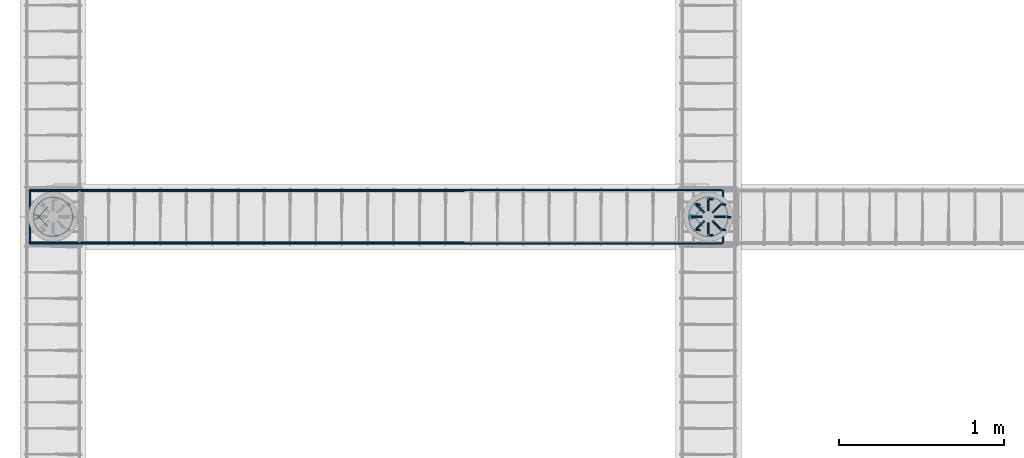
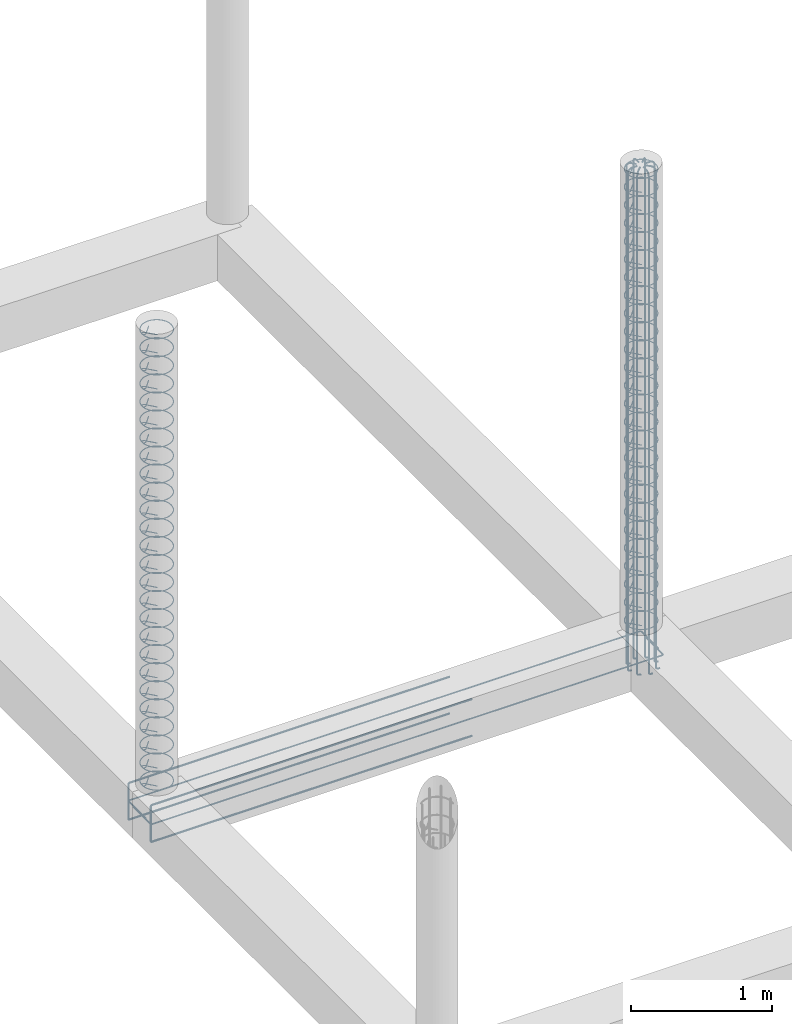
# One storey, part 11 of 20: 6 reinforcing bars.
"""IFC4 building model written with IfcOpenShell, lengths in metres."""

from ifc_helpers import new_model, entity, si_unit, origin_with_axes, place, context, project, spatial, source, transform, mapped, element, save


model = new_model("IFC4")

# Units and contexts
model_context = context("Model", 3, precision=1e-05, world=origin_with_axes())
ifc_project = project(units=[si_unit("LENGTHUNIT", "METRE"), si_unit("AREAUNIT", "SQUARE_METRE"), si_unit("VOLUMEUNIT", "CUBIC_METRE"), si_unit("MASSUNIT", "GRAM", prefix="KILO"), si_unit("TIMEUNIT", "SECOND"), si_unit("PLANEANGLEUNIT", "RADIAN"), si_unit("SOLIDANGLEUNIT", "STERADIAN"), si_unit("THERMODYNAMICTEMPERATUREUNIT", "DEGREE_CELSIUS")], contexts=[model_context])

# Site, building, storey
placement_1 = place(None, origin_with_axes())
site = spatial("IfcSite", under=ifc_project, at=placement_1, Name="Italia", CompositionType="ELEMENT")
building = spatial("IfcBuilding", under=site, at=placement_1, Name="Tettoia", CompositionType="ELEMENT")
storey = spatial("IfcBuildingStorey", under=building, at=placement_1, Name="Storey 0", CompositionType="ELEMENT", Elevation=0.0)

# Reinforcing bars
shared_shape_1 = source(origin_with_axes(), model_context, "Body", "AdvancedSweptSolid", [
    entity("IfcSweptDiskSolid", entity("IfcIndexedPolyCurve", entity("IfcCartesianPointList3D", [[3.99102, 13.946, -0.375], [3.97714, 13.9479, -0.375], [3.97097, 13.9487, -0.373761], [3.96573, 13.9494, -0.370231], [3.96223, 13.9498, -0.364949], [3.961, 13.95, -0.358718], [3.961, 13.95, 0.5725]]), [entity("IfcLineIndex", [1, 2]), entity("IfcLineIndex", [2, 3]), entity("IfcLineIndex", [3, 4]), entity("IfcLineIndex", [4, 5]), entity("IfcLineIndex", [5, 6]), entity("IfcLineIndex", [6, 7])], False), 0.007),
])
placement_2 = place(placement_1, origin_with_axes())
reinforcing_bar_1_placement = place(placement_2, origin_with_axes())
element("IfcReinforcingBar", 1, at=reinforcing_bar_1_placement, inside=storey, BarLength=0.97063, CrossSectionArea=0.00015394, NominalDiameter=0.014, context=model_context, shape_type="MappedRepresentation", body=[
    mapped(shared_shape_1, transform((0.031894, -0.0770674, 0.0), x_axis=(1.0, 0.0, 0.0), y_axis=(0.0, 1.0, 0.0), z_axis=(0.0, 0.0, 1.0), scale=1.0)),
    mapped(shared_shape_1, transform((0.108906, -0.108974, 0.0), x_axis=(1.0, 0.0, 0.0), y_axis=(0.0, 1.0, 0.0), z_axis=(0.0, 0.0, 1.0), scale=1.0)),
    mapped(shared_shape_1, transform((0.186042, -0.0770674, 0.0), x_axis=(1.0, 0.0, 0.0), y_axis=(0.0, 1.0, 0.0), z_axis=(0.0, 0.0, 1.0), scale=1.0)),
    mapped(shared_shape_1, transform((0.217968, 0.0, 0.0), x_axis=(1.0, 0.0, 0.0), y_axis=(0.0, 1.0, 0.0), z_axis=(0.0, 0.0, 1.0), scale=1.0)),
    mapped(shared_shape_1, transform((0.031894, 0.0770817, -1.48714e-05), x_axis=(1.0, 0.0, 0.0), y_axis=(0.0, 1.0, 0.0), z_axis=(0.0, 0.0, 1.0), scale=1.0)),
    mapped(shared_shape_1, transform((0.0, 0.0, 0.0), x_axis=(1.0, 0.0, 0.0), y_axis=(0.0, 1.0, 0.0), z_axis=(0.0, 0.0, 1.0), scale=1.0)),
    mapped(shared_shape_1, transform((0.186042, 0.0770817, -1.43945e-05), x_axis=(1.0, 0.0, 0.0), y_axis=(0.0, 1.0, 0.0), z_axis=(0.0, 0.0, 1.0), scale=1.0)),
    mapped(shared_shape_1, transform((0.109031, 0.10899, -1.32918e-05), x_axis=(1.0, 0.0, 0.0), y_axis=(0.0, 1.0, 0.0), z_axis=(0.0, 0.0, 1.0), scale=1.0)),
])
shared_shape_2 = source(origin_with_axes(), model_context, "Body", "AdvancedSweptSolid", [
    entity("IfcSweptDiskSolid", entity("IfcIndexedPolyCurve", entity("IfcCartesianPointList3D", [[3.961, 13.95, 0.0], [3.961, 13.95, 3.94], [3.96366, 13.95, 3.95339], [3.97125, 13.95, 3.96475], [3.98261, 13.95, 3.97234], [3.996, 13.95, 3.975], [4.036, 13.95, 3.975]]), [entity("IfcLineIndex", [1, 2]), entity("IfcLineIndex", [2, 3]), entity("IfcLineIndex", [3, 4]), entity("IfcLineIndex", [4, 5]), entity("IfcLineIndex", [5, 6]), entity("IfcLineIndex", [6, 7])], False), 0.007),
])
reinforcing_bar_2_placement = place(placement_2, origin_with_axes())
element("IfcReinforcingBar", 2, at=reinforcing_bar_2_placement, inside=storey, BarLength=4.03463, CrossSectionArea=0.00015394, NominalDiameter=0.014, context=model_context, shape_type="MappedRepresentation", body=[
    mapped(shared_shape_2, transform((16.812, 20.9363, 0.0), x_axis=(-0.70711, 0.707104, 0.0), y_axis=(-0.707104, -0.70711, 0.0), z_axis=(0.0, 0.0, 1.0), scale=1.0)),
    mapped(shared_shape_2, transform((8.14, 27.9, 0.0), x_axis=(-1.0, 0.0, 0.0), y_axis=(0.0, -1.0, 0.0), z_axis=(0.0, 0.0, 1.0), scale=1.0)),
    mapped(shared_shape_2, transform((11.0562, 1.20792, 0.0), x_axis=(0.707108, 0.707105, 0.0), y_axis=(-0.707105, 0.707108, 0.0), z_axis=(0.0, 0.0, 1.0), scale=1.0)),
    mapped(shared_shape_2, transform((18.02, 9.88, 0.0), x_axis=(0.0, 1.0, 0.0), y_axis=(-1.0, 0.0, 0.0), z_axis=(0.0, 0.0, 1.0), scale=1.0)),
    mapped(shared_shape_2, transform((-8.67205, 6.96376, 0.0), x_axis=(0.707108, -0.707105, 0.0), y_axis=(0.707105, 0.707108, 0.0), z_axis=(0.0, 0.0, 1.0), scale=1.0)),
    mapped(shared_shape_2, transform((0.0, 0.0, 0.0), x_axis=(1.0, 0.0, 0.0), y_axis=(0.0, 1.0, 0.0), z_axis=(0.0, 0.0, 1.0), scale=1.0)),
    mapped(shared_shape_2, transform((-2.91616, 26.6921, 0.0), x_axis=(-0.70711, -0.707104, 0.0), y_axis=(0.707104, -0.70711, 0.0), z_axis=(0.0, 0.0, 1.0), scale=1.0)),
    mapped(shared_shape_2, transform((-9.88, 18.02, 0.0), x_axis=(0.0, -1.0, 0.0), y_axis=(1.0, 0.0, 0.0), z_axis=(0.0, 0.0, 1.0), scale=1.0)),
])
shared_shape_3 = source(origin_with_axes(), model_context, "Body", "AdvancedSweptSolid", [
    entity("IfcSweptDiskSolid", entity("IfcIndexedPolyCurve", entity("IfcCartesianPointList3D", [[4.03909, 13.8886, 0.029], [3.97569, 13.9605, 0.029], [3.96882, 13.9638, 0.029], [3.96197, 13.9643, 0.029], [3.95811, 13.9637, 0.029], [3.95473, 13.9618, 0.029], [3.95237, 13.9587, 0.029], [3.95137, 13.9549, 0.029], [3.9511, 13.9507, 0.029], [3.95111, 13.9493, 0.029], [3.95246, 13.9322, 0.029], [3.95271, 13.9306, 0.029], [3.9567, 13.914, 0.029], [3.95718, 13.9125, 0.029], [3.96372, 13.8967, 0.029], [3.96443, 13.8953, 0.029], [3.97336, 13.8808, 0.029], [3.97429, 13.8795, 0.029], [3.98538, 13.8665, 0.029], [3.98649, 13.8654, 0.029], [3.99949, 13.8543, 0.029], [4.00076, 13.8534, 0.029], [4.01533, 13.8444, 0.029], [4.01673, 13.8437, 0.029], [4.03252, 13.8372, 0.029], [4.03401, 13.8367, 0.029], [4.05063, 13.8327, 0.029], [4.05218, 13.8325, 0.029], [4.06922, 13.8311, 0.029], [4.07078, 13.8311, 0.029], [4.08782, 13.8325, 0.029], [4.08937, 13.8327, 0.029], [4.10599, 13.8367, 0.029], [4.10748, 13.8372, 0.029], [4.12327, 13.8437, 0.029], [4.12467, 13.8444, 0.029], [4.13924, 13.8534, 0.029], [4.14051, 13.8543, 0.029], [4.15351, 13.8654, 0.029], [4.15462, 13.8665, 0.029], [4.16571, 13.8795, 0.029], [4.16664, 13.8808, 0.029], [4.17557, 13.8953, 0.029], [4.17628, 13.8967, 0.029], [4.18282, 13.9125, 0.029], [4.1833, 13.914, 0.029], [4.18729, 13.9306, 0.029], [4.18754, 13.9322, 0.029], [4.18888, 13.9492, 0.029], [4.18888, 13.9508, 0.029], [4.18754, 13.9678, 0.029], [4.18729, 13.9694, 0.029], [4.1833, 13.986, 0.029], [4.18282, 13.9875, 0.029], [4.17628, 14.0033, 0.029], [4.17557, 14.0047, 0.029], [4.16664, 14.0192, 0.029], [4.16571, 14.0205, 0.029], [4.15462, 14.0335, 0.029], [4.15351, 14.0346, 0.029], [4.14051, 14.0457, 0.029], [4.13924, 14.0466, 0.029], [4.12467, 14.0556, 0.029], [4.12327, 14.0563, 0.029], [4.10748, 14.0628, 0.029], [4.10599, 14.0633, 0.029], [4.08937, 14.0673, 0.029], [4.08782, 14.0675, 0.029], [4.07078, 14.0689, 0.029], [4.06922, 14.0689, 0.029], [4.05218, 14.0675, 0.029], [4.05063, 14.0673, 0.029], [4.03401, 14.0633, 0.029], [4.03252, 14.0628, 0.029], [4.01673, 14.0563, 0.029], [4.01533, 14.0556, 0.029], [4.00076, 14.0466, 0.029], [3.99949, 14.0457, 0.029], [3.98649, 14.0346, 0.029], [3.98538, 14.0335, 0.029], [3.97429, 14.0205, 0.029], [3.97336, 14.0192, 0.029], [3.96443, 14.0047, 0.029], [3.96372, 14.0033, 0.029], [3.95718, 13.9875, 0.029], [3.9567, 13.986, 0.029], [3.95271, 13.9694, 0.029], [3.95246, 13.9678, 0.029], [3.95111, 13.9507, 0.029], [3.9511, 13.9493, 0.029], [3.95137, 13.9451, 0.029], [3.95237, 13.9413, 0.029], [3.95473, 13.9382, 0.029], [3.95811, 13.9363, 0.029], [3.96197, 13.9357, 0.029], [3.96882, 13.9362, 0.029], [3.97569, 13.9395, 0.029], [4.03909, 14.0114, 0.029]]), [entity("IfcLineIndex", [1, 2]), entity("IfcLineIndex", [2, 3]), entity("IfcLineIndex", [3, 4]), entity("IfcLineIndex", [4, 5]), entity("IfcLineIndex", [5, 6]), entity("IfcLineIndex", [6, 7]), entity("IfcLineIndex", [7, 8]), entity("IfcLineIndex", [8, 9]), entity("IfcLineIndex", [9, 10]), entity("IfcLineIndex", [10, 11]), entity("IfcLineIndex", [11, 12]), entity("IfcLineIndex", [12, 13]), entity("IfcLineIndex", [13, 14]), entity("IfcLineIndex", [14, 15]), entity("IfcLineIndex", [15, 16]), entity("IfcLineIndex", [16, 17]), entity("IfcLineIndex", [17, 18]), entity("IfcLineIndex", [18, 19]), entity("IfcLineIndex", [19, 20]), entity("IfcLineIndex", [20, 21]), entity("IfcLineIndex", [21, 22]), entity("IfcLineIndex", [22, 23]), entity("IfcLineIndex", [23, 24]), entity("IfcLineIndex", [24, 25]), entity("IfcLineIndex", [25, 26]), entity("IfcLineIndex", [26, 27]), entity("IfcLineIndex", [27, 28]), entity("IfcLineIndex", [28, 29]), entity("IfcLineIndex", [29, 30]), entity("IfcLineIndex", [30, 31]), entity("IfcLineIndex", [31, 32]), entity("IfcLineIndex", [32, 33]), entity("IfcLineIndex", [33, 34]), entity("IfcLineIndex", [34, 35]), entity("IfcLineIndex", [35, 36]), entity("IfcLineIndex", [36, 37]), entity("IfcLineIndex", [37, 38]), entity("IfcLineIndex", [38, 39]), entity("IfcLineIndex", [39, 40]), entity("IfcLineIndex", [40, 41]), entity("IfcLineIndex", [41, 42]), entity("IfcLineIndex", [42, 43]), entity("IfcLineIndex", [43, 44]), entity("IfcLineIndex", [44, 45]), entity("IfcLineIndex", [45, 46]), entity("IfcLineIndex", [46, 47]), entity("IfcLineIndex", [47, 48]), entity("IfcLineIndex", [48, 49]), entity("IfcLineIndex", [49, 50]), entity("IfcLineIndex", [50, 51]), entity("IfcLineIndex", [51, 52]), entity("IfcLineIndex", [52, 53]), entity("IfcLineIndex", [53, 54]), entity("IfcLineIndex", [54, 55]), entity("IfcLineIndex", [55, 56]), entity("IfcLineIndex", [56, 57]), entity("IfcLineIndex", [57, 58]), entity("IfcLineIndex", [58, 59]), entity("IfcLineIndex", [59, 60]), entity("IfcLineIndex", [60, 61]), entity("IfcLineIndex", [61, 62]), entity("IfcLineIndex", [62, 63]), entity("IfcLineIndex", [63, 64]), entity("IfcLineIndex", [64, 65]), entity("IfcLineIndex", [65, 66]), entity("IfcLineIndex", [66, 67]), entity("IfcLineIndex", [67, 68]), entity("IfcLineIndex", [68, 69]), entity("IfcLineIndex", [69, 70]), entity("IfcLineIndex", [70, 71]), entity("IfcLineIndex", [71, 72]), entity("IfcLineIndex", [72, 73]), entity("IfcLineIndex", [73, 74]), entity("IfcLineIndex", [74, 75]), entity("IfcLineIndex", [75, 76]), entity("IfcLineIndex", [76, 77]), entity("IfcLineIndex", [77, 78]), entity("IfcLineIndex", [78, 79]), entity("IfcLineIndex", [79, 80]), entity("IfcLineIndex", [80, 81]), entity("IfcLineIndex", [81, 82]), entity("IfcLineIndex", [82, 83]), entity("IfcLineIndex", [83, 84]), entity("IfcLineIndex", [84, 85]), entity("IfcLineIndex", [85, 86]), entity("IfcLineIndex", [86, 87]), entity("IfcLineIndex", [87, 88]), entity("IfcLineIndex", [88, 89]), entity("IfcLineIndex", [89, 90]), entity("IfcLineIndex", [90, 91]), entity("IfcLineIndex", [91, 92]), entity("IfcLineIndex", [92, 93]), entity("IfcLineIndex", [93, 94]), entity("IfcLineIndex", [94, 95]), entity("IfcLineIndex", [95, 96]), entity("IfcLineIndex", [96, 97]), entity("IfcLineIndex", [97, 98])], False), 0.004),
])
reinforcing_bar_3_placement = place(placement_2, origin_with_axes())
element("IfcReinforcingBar", 3, at=reinforcing_bar_3_placement, inside=storey, BarLength=1.00814, CrossSectionArea=5.0265e-05, NominalDiameter=0.008, context=model_context, shape_type="MappedRepresentation", body=[
    mapped(shared_shape_3, transform((0.0, 0.0, 1.8768), x_axis=(1.0, 0.0, 0.0), y_axis=(0.0, 1.0, 0.0), z_axis=(0.0, 0.0, 1.0), scale=1.0)),
    mapped(shared_shape_3, transform((0.0, 0.0, 1.7204), x_axis=(1.0, 0.0, 0.0), y_axis=(0.0, 1.0, 0.0), z_axis=(0.0, 0.0, 1.0), scale=1.0)),
    mapped(shared_shape_3, transform((0.0, 0.0, 1.0948), x_axis=(1.0, 0.0, 0.0), y_axis=(0.0, 1.0, 0.0), z_axis=(0.0, 0.0, 1.0), scale=1.0)),
    mapped(shared_shape_3, transform((0.0, 0.0, 1.4076), x_axis=(1.0, 0.0, 0.0), y_axis=(0.0, 1.0, 0.0), z_axis=(0.0, 0.0, 1.0), scale=1.0)),
    mapped(shared_shape_3, transform((0.0, 0.0, 1.2512), x_axis=(1.0, 0.0, 0.0), y_axis=(0.0, 1.0, 0.0), z_axis=(0.0, 0.0, 1.0), scale=1.0)),
    mapped(shared_shape_3, transform((0.0, 0.0, 1.564), x_axis=(1.0, 0.0, 0.0), y_axis=(0.0, 1.0, 0.0), z_axis=(0.0, 0.0, 1.0), scale=1.0)),
    mapped(shared_shape_3, transform((0.0, 0.0, 0.9384), x_axis=(1.0, 0.0, 0.0), y_axis=(0.0, 1.0, 0.0), z_axis=(0.0, 0.0, 1.0), scale=1.0)),
    mapped(shared_shape_3, transform((0.0, 0.0, 0.782), x_axis=(1.0, 0.0, 0.0), y_axis=(0.0, 1.0, 0.0), z_axis=(0.0, 0.0, 1.0), scale=1.0)),
    mapped(shared_shape_3, transform((0.0, 0.0, 0.1564), x_axis=(1.0, 0.0, 0.0), y_axis=(0.0, 1.0, 0.0), z_axis=(0.0, 0.0, 1.0), scale=1.0)),
    mapped(shared_shape_3, transform((0.0, 0.0, 0.4692), x_axis=(1.0, 0.0, 0.0), y_axis=(0.0, 1.0, 0.0), z_axis=(0.0, 0.0, 1.0), scale=1.0)),
    mapped(shared_shape_3, transform((0.0, 0.0, 0.3128), x_axis=(1.0, 0.0, 0.0), y_axis=(0.0, 1.0, 0.0), z_axis=(0.0, 0.0, 1.0), scale=1.0)),
    mapped(shared_shape_3, transform((0.0, 0.0, 0.6256), x_axis=(1.0, 0.0, 0.0), y_axis=(0.0, 1.0, 0.0), z_axis=(0.0, 0.0, 1.0), scale=1.0)),
    mapped(shared_shape_3, transform((0.0, 0.0, 0.0), x_axis=(1.0, 0.0, 0.0), y_axis=(0.0, 1.0, 0.0), z_axis=(0.0, 0.0, 1.0), scale=1.0)),
    mapped(shared_shape_3, transform((0.0, 0.0, 3.91), x_axis=(1.0, 0.0, 0.0), y_axis=(0.0, 1.0, 0.0), z_axis=(0.0, 0.0, 1.0), scale=1.0)),
    mapped(shared_shape_3, transform((0.0, 0.0, 3.2844), x_axis=(1.0, 0.0, 0.0), y_axis=(0.0, 1.0, 0.0), z_axis=(0.0, 0.0, 1.0), scale=1.0)),
    mapped(shared_shape_3, transform((0.0, 0.0, 3.5972), x_axis=(1.0, 0.0, 0.0), y_axis=(0.0, 1.0, 0.0), z_axis=(0.0, 0.0, 1.0), scale=1.0)),
    mapped(shared_shape_3, transform((0.0, 0.0, 3.4408), x_axis=(1.0, 0.0, 0.0), y_axis=(0.0, 1.0, 0.0), z_axis=(0.0, 0.0, 1.0), scale=1.0)),
    mapped(shared_shape_3, transform((0.0, 0.0, 3.7536), x_axis=(1.0, 0.0, 0.0), y_axis=(0.0, 1.0, 0.0), z_axis=(0.0, 0.0, 1.0), scale=1.0)),
    mapped(shared_shape_3, transform((0.0, 0.0, 3.128), x_axis=(1.0, 0.0, 0.0), y_axis=(0.0, 1.0, 0.0), z_axis=(0.0, 0.0, 1.0), scale=1.0)),
    mapped(shared_shape_3, transform((0.0, 0.0, 2.9716), x_axis=(1.0, 0.0, 0.0), y_axis=(0.0, 1.0, 0.0), z_axis=(0.0, 0.0, 1.0), scale=1.0)),
    mapped(shared_shape_3, transform((0.0, 0.0, 2.346), x_axis=(1.0, 0.0, 0.0), y_axis=(0.0, 1.0, 0.0), z_axis=(0.0, 0.0, 1.0), scale=1.0)),
    mapped(shared_shape_3, transform((0.0, 0.0, 2.6588), x_axis=(1.0, 0.0, 0.0), y_axis=(0.0, 1.0, 0.0), z_axis=(0.0, 0.0, 1.0), scale=1.0)),
    mapped(shared_shape_3, transform((0.0, 0.0, 2.5024), x_axis=(1.0, 0.0, 0.0), y_axis=(0.0, 1.0, 0.0), z_axis=(0.0, 0.0, 1.0), scale=1.0)),
    mapped(shared_shape_3, transform((0.0, 0.0, 2.8152), x_axis=(1.0, 0.0, 0.0), y_axis=(0.0, 1.0, 0.0), z_axis=(0.0, 0.0, 1.0), scale=1.0)),
    mapped(shared_shape_3, transform((0.0, 0.0, 2.1896), x_axis=(1.0, 0.0, 0.0), y_axis=(0.0, 1.0, 0.0), z_axis=(0.0, 0.0, 1.0), scale=1.0)),
    mapped(shared_shape_3, transform((0.0, 0.0, 2.0332), x_axis=(1.0, 0.0, 0.0), y_axis=(0.0, 1.0, 0.0), z_axis=(0.0, 0.0, 1.0), scale=1.0)),
])
shared_shape_4 = source(origin_with_axes(), model_context, "Body", "AdvancedSweptSolid", [
    entity("IfcSweptDiskSolid", entity("IfcIndexedPolyCurve", entity("IfcCartesianPointList3D", [[0.0690919, 13.8886, 0.029], [0.00569162, 13.9605, 0.029], [-0.00118195, 13.9638, 0.029], [-0.00802632, 13.9643, 0.029], [-0.0118933, 13.9637, 0.029], [-0.0152671, 13.9618, 0.029], [-0.0176339, 13.9587, 0.029], [-0.0186335, 13.9549, 0.029], [-0.018897, 13.9507, 0.029], [-0.0188859, 13.9493, 0.029], [-0.0175388, 13.9322, 0.029], [-0.0172933, 13.9306, 0.029], [-0.0133037, 13.914, 0.029], [-0.0128188, 13.9125, 0.029], [-0.00627872, 13.8967, 0.029], [-0.00556632, 13.8953, 0.029], [0.00336316, 13.8808, 0.029], [0.0042855, 13.8795, 0.029], [0.0153847, 13.8665, 0.029], [0.0164943, 13.8654, 0.029], [0.0294895, 13.8543, 0.029], [0.030759, 13.8534, 0.029], [0.0453307, 13.8444, 0.029], [0.0467289, 13.8437, 0.029], [0.062518, 13.8372, 0.029], [0.0640104, 13.8367, 0.029], [0.0806282, 13.8327, 0.029], [0.0821781, 13.8325, 0.029], [0.0992154, 13.8311, 0.029], [0.100785, 13.8311, 0.029], [0.117822, 13.8325, 0.029], [0.119372, 13.8327, 0.029], [0.13599, 13.8367, 0.029], [0.137482, 13.8372, 0.029], [0.153271, 13.8437, 0.029], [0.154669, 13.8444, 0.029], [0.169241, 13.8534, 0.029], [0.17051, 13.8543, 0.029], [0.183506, 13.8654, 0.029], [0.184615, 13.8665, 0.029], [0.195715, 13.8795, 0.029], [0.196637, 13.8808, 0.029], [0.205566, 13.8953, 0.029], [0.206279, 13.8967, 0.029], [0.212819, 13.9125, 0.029], [0.213304, 13.914, 0.029], [0.217293, 13.9306, 0.029], [0.217539, 13.9322, 0.029], [0.21888, 13.9492, 0.029], [0.21888, 13.9508, 0.029], [0.217539, 13.9678, 0.029], [0.217293, 13.9694, 0.029], [0.213304, 13.986, 0.029], [0.212819, 13.9875, 0.029], [0.206279, 14.0033, 0.029], [0.205566, 14.0047, 0.029], [0.196637, 14.0192, 0.029], [0.195714, 14.0205, 0.029], [0.184615, 14.0335, 0.029], [0.183506, 14.0346, 0.029], [0.170511, 14.0457, 0.029], [0.169241, 14.0466, 0.029], [0.154669, 14.0556, 0.029], [0.153271, 14.0563, 0.029], [0.137482, 14.0628, 0.029], [0.13599, 14.0633, 0.029], [0.119372, 14.0673, 0.029], [0.117822, 14.0675, 0.029], [0.100785, 14.0689, 0.029], [0.0992154, 14.0689, 0.029], [0.0821781, 14.0675, 0.029], [0.0806282, 14.0673, 0.029], [0.0640103, 14.0633, 0.029], [0.0625179, 14.0628, 0.029], [0.0467289, 14.0563, 0.029], [0.0453307, 14.0556, 0.029], [0.0307591, 14.0466, 0.029], [0.0294896, 14.0457, 0.029], [0.0164941, 14.0346, 0.029], [0.0153846, 14.0335, 0.029], [0.00428557, 14.0205, 0.029], [0.00336323, 14.0192, 0.029], [-0.00556631, 14.0047, 0.029], [-0.00627871, 14.0033, 0.029], [-0.0128188, 13.9875, 0.029], [-0.0133037, 13.986, 0.029], [-0.0172933, 13.9694, 0.029], [-0.0175387, 13.9678, 0.029], [-0.0188859, 13.9507, 0.029], [-0.018897, 13.9493, 0.029], [-0.0186335, 13.9451, 0.029], [-0.0176339, 13.9413, 0.029], [-0.0152671, 13.9382, 0.029], [-0.0118933, 13.9363, 0.029], [-0.00802632, 13.9357, 0.029], [-0.00118195, 13.9362, 0.029], [0.00569162, 13.9395, 0.029], [0.0690919, 14.0114, 0.029]]), [entity("IfcLineIndex", [1, 2]), entity("IfcLineIndex", [2, 3]), entity("IfcLineIndex", [3, 4]), entity("IfcLineIndex", [4, 5]), entity("IfcLineIndex", [5, 6]), entity("IfcLineIndex", [6, 7]), entity("IfcLineIndex", [7, 8]), entity("IfcLineIndex", [8, 9]), entity("IfcLineIndex", [9, 10]), entity("IfcLineIndex", [10, 11]), entity("IfcLineIndex", [11, 12]), entity("IfcLineIndex", [12, 13]), entity("IfcLineIndex", [13, 14]), entity("IfcLineIndex", [14, 15]), entity("IfcLineIndex", [15, 16]), entity("IfcLineIndex", [16, 17]), entity("IfcLineIndex", [17, 18]), entity("IfcLineIndex", [18, 19]), entity("IfcLineIndex", [19, 20]), entity("IfcLineIndex", [20, 21]), entity("IfcLineIndex", [21, 22]), entity("IfcLineIndex", [22, 23]), entity("IfcLineIndex", [23, 24]), entity("IfcLineIndex", [24, 25]), entity("IfcLineIndex", [25, 26]), entity("IfcLineIndex", [26, 27]), entity("IfcLineIndex", [27, 28]), entity("IfcLineIndex", [28, 29]), entity("IfcLineIndex", [29, 30]), entity("IfcLineIndex", [30, 31]), entity("IfcLineIndex", [31, 32]), entity("IfcLineIndex", [32, 33]), entity("IfcLineIndex", [33, 34]), entity("IfcLineIndex", [34, 35]), entity("IfcLineIndex", [35, 36]), entity("IfcLineIndex", [36, 37]), entity("IfcLineIndex", [37, 38]), entity("IfcLineIndex", [38, 39]), entity("IfcLineIndex", [39, 40]), entity("IfcLineIndex", [40, 41]), entity("IfcLineIndex", [41, 42]), entity("IfcLineIndex", [42, 43]), entity("IfcLineIndex", [43, 44]), entity("IfcLineIndex", [44, 45]), entity("IfcLineIndex", [45, 46]), entity("IfcLineIndex", [46, 47]), entity("IfcLineIndex", [47, 48]), entity("IfcLineIndex", [48, 49]), entity("IfcLineIndex", [49, 50]), entity("IfcLineIndex", [50, 51]), entity("IfcLineIndex", [51, 52]), entity("IfcLineIndex", [52, 53]), entity("IfcLineIndex", [53, 54]), entity("IfcLineIndex", [54, 55]), entity("IfcLineIndex", [55, 56]), entity("IfcLineIndex", [56, 57]), entity("IfcLineIndex", [57, 58]), entity("IfcLineIndex", [58, 59]), entity("IfcLineIndex", [59, 60]), entity("IfcLineIndex", [60, 61]), entity("IfcLineIndex", [61, 62]), entity("IfcLineIndex", [62, 63]), entity("IfcLineIndex", [63, 64]), entity("IfcLineIndex", [64, 65]), entity("IfcLineIndex", [65, 66]), entity("IfcLineIndex", [66, 67]), entity("IfcLineIndex", [67, 68]), entity("IfcLineIndex", [68, 69]), entity("IfcLineIndex", [69, 70]), entity("IfcLineIndex", [70, 71]), entity("IfcLineIndex", [71, 72]), entity("IfcLineIndex", [72, 73]), entity("IfcLineIndex", [73, 74]), entity("IfcLineIndex", [74, 75]), entity("IfcLineIndex", [75, 76]), entity("IfcLineIndex", [76, 77]), entity("IfcLineIndex", [77, 78]), entity("IfcLineIndex", [78, 79]), entity("IfcLineIndex", [79, 80]), entity("IfcLineIndex", [80, 81]), entity("IfcLineIndex", [81, 82]), entity("IfcLineIndex", [82, 83]), entity("IfcLineIndex", [83, 84]), entity("IfcLineIndex", [84, 85]), entity("IfcLineIndex", [85, 86]), entity("IfcLineIndex", [86, 87]), entity("IfcLineIndex", [87, 88]), entity("IfcLineIndex", [88, 89]), entity("IfcLineIndex", [89, 90]), entity("IfcLineIndex", [90, 91]), entity("IfcLineIndex", [91, 92]), entity("IfcLineIndex", [92, 93]), entity("IfcLineIndex", [93, 94]), entity("IfcLineIndex", [94, 95]), entity("IfcLineIndex", [95, 96]), entity("IfcLineIndex", [96, 97]), entity("IfcLineIndex", [97, 98])], False), 0.004),
])
reinforcing_bar_4_placement = place(placement_2, origin_with_axes())
element("IfcReinforcingBar", 4, at=reinforcing_bar_4_placement, inside=storey, BarLength=1.00814, CrossSectionArea=5.0265e-05, NominalDiameter=0.008, context=model_context, shape_type="MappedRepresentation", body=[
    mapped(shared_shape_4, transform((0.0, 0.0, 1.8768), x_axis=(1.0, 0.0, 0.0), y_axis=(0.0, 1.0, 0.0), z_axis=(0.0, 0.0, 1.0), scale=1.0)),
    mapped(shared_shape_4, transform((0.0, 0.0, 1.7204), x_axis=(1.0, 0.0, 0.0), y_axis=(0.0, 1.0, 0.0), z_axis=(0.0, 0.0, 1.0), scale=1.0)),
    mapped(shared_shape_4, transform((0.0, 0.0, 1.0948), x_axis=(1.0, 0.0, 0.0), y_axis=(0.0, 1.0, 0.0), z_axis=(0.0, 0.0, 1.0), scale=1.0)),
    mapped(shared_shape_4, transform((0.0, 0.0, 1.4076), x_axis=(1.0, 0.0, 0.0), y_axis=(0.0, 1.0, 0.0), z_axis=(0.0, 0.0, 1.0), scale=1.0)),
    mapped(shared_shape_4, transform((0.0, 0.0, 1.2512), x_axis=(1.0, 0.0, 0.0), y_axis=(0.0, 1.0, 0.0), z_axis=(0.0, 0.0, 1.0), scale=1.0)),
    mapped(shared_shape_4, transform((0.0, 0.0, 1.564), x_axis=(1.0, 0.0, 0.0), y_axis=(0.0, 1.0, 0.0), z_axis=(0.0, 0.0, 1.0), scale=1.0)),
    mapped(shared_shape_4, transform((0.0, 0.0, 0.9384), x_axis=(1.0, 0.0, 0.0), y_axis=(0.0, 1.0, 0.0), z_axis=(0.0, 0.0, 1.0), scale=1.0)),
    mapped(shared_shape_4, transform((0.0, 0.0, 0.782), x_axis=(1.0, 0.0, 0.0), y_axis=(0.0, 1.0, 0.0), z_axis=(0.0, 0.0, 1.0), scale=1.0)),
    mapped(shared_shape_4, transform((0.0, 0.0, 0.1564), x_axis=(1.0, 0.0, 0.0), y_axis=(0.0, 1.0, 0.0), z_axis=(0.0, 0.0, 1.0), scale=1.0)),
    mapped(shared_shape_4, transform((0.0, 0.0, 0.4692), x_axis=(1.0, 0.0, 0.0), y_axis=(0.0, 1.0, 0.0), z_axis=(0.0, 0.0, 1.0), scale=1.0)),
    mapped(shared_shape_4, transform((0.0, 0.0, 0.3128), x_axis=(1.0, 0.0, 0.0), y_axis=(0.0, 1.0, 0.0), z_axis=(0.0, 0.0, 1.0), scale=1.0)),
    mapped(shared_shape_4, transform((0.0, 0.0, 0.6256), x_axis=(1.0, 0.0, 0.0), y_axis=(0.0, 1.0, 0.0), z_axis=(0.0, 0.0, 1.0), scale=1.0)),
    mapped(shared_shape_4, transform((0.0, 0.0, 0.0), x_axis=(1.0, 0.0, 0.0), y_axis=(0.0, 1.0, 0.0), z_axis=(0.0, 0.0, 1.0), scale=1.0)),
    mapped(shared_shape_4, transform((0.0, 0.0, 3.91), x_axis=(1.0, 0.0, 0.0), y_axis=(0.0, 1.0, 0.0), z_axis=(0.0, 0.0, 1.0), scale=1.0)),
    mapped(shared_shape_4, transform((0.0, 0.0, 3.2844), x_axis=(1.0, 0.0, 0.0), y_axis=(0.0, 1.0, 0.0), z_axis=(0.0, 0.0, 1.0), scale=1.0)),
    mapped(shared_shape_4, transform((0.0, 0.0, 3.5972), x_axis=(1.0, 0.0, 0.0), y_axis=(0.0, 1.0, 0.0), z_axis=(0.0, 0.0, 1.0), scale=1.0)),
    mapped(shared_shape_4, transform((0.0, 0.0, 3.4408), x_axis=(1.0, 0.0, 0.0), y_axis=(0.0, 1.0, 0.0), z_axis=(0.0, 0.0, 1.0), scale=1.0)),
    mapped(shared_shape_4, transform((0.0, 0.0, 3.7536), x_axis=(1.0, 0.0, 0.0), y_axis=(0.0, 1.0, 0.0), z_axis=(0.0, 0.0, 1.0), scale=1.0)),
    mapped(shared_shape_4, transform((0.0, 0.0, 3.128), x_axis=(1.0, 0.0, 0.0), y_axis=(0.0, 1.0, 0.0), z_axis=(0.0, 0.0, 1.0), scale=1.0)),
    mapped(shared_shape_4, transform((0.0, 0.0, 2.9716), x_axis=(1.0, 0.0, 0.0), y_axis=(0.0, 1.0, 0.0), z_axis=(0.0, 0.0, 1.0), scale=1.0)),
    mapped(shared_shape_4, transform((0.0, 0.0, 2.346), x_axis=(1.0, 0.0, 0.0), y_axis=(0.0, 1.0, 0.0), z_axis=(0.0, 0.0, 1.0), scale=1.0)),
    mapped(shared_shape_4, transform((0.0, 0.0, 2.6588), x_axis=(1.0, 0.0, 0.0), y_axis=(0.0, 1.0, 0.0), z_axis=(0.0, 0.0, 1.0), scale=1.0)),
    mapped(shared_shape_4, transform((0.0, 0.0, 2.5024), x_axis=(1.0, 0.0, 0.0), y_axis=(0.0, 1.0, 0.0), z_axis=(0.0, 0.0, 1.0), scale=1.0)),
    mapped(shared_shape_4, transform((0.0, 0.0, 2.8152), x_axis=(1.0, 0.0, 0.0), y_axis=(0.0, 1.0, 0.0), z_axis=(0.0, 0.0, 1.0), scale=1.0)),
    mapped(shared_shape_4, transform((0.0, 0.0, 2.1896), x_axis=(1.0, 0.0, 0.0), y_axis=(0.0, 1.0, 0.0), z_axis=(0.0, 0.0, 1.0), scale=1.0)),
    mapped(shared_shape_4, transform((0.0, 0.0, 2.0332), x_axis=(1.0, 0.0, 0.0), y_axis=(0.0, 1.0, 0.0), z_axis=(0.0, 0.0, 1.0), scale=1.0)),
])
shared_shape_5 = source(origin_with_axes(), model_context, "Body", "AdvancedSweptSolid", [
    entity("IfcSweptDiskSolid", entity("IfcIndexedPolyCurve", entity("IfcCartesianPointList3D", [[-0.0399999, 13.861, -0.194], [-0.0399999, 14.101, -0.194], [-0.0392387, 14.1048, -0.194], [-0.037071, 14.1081, -0.194], [-0.0338267, 14.1102, -0.194], [-0.0299999, 14.111, -0.194], [4.15, 14.111, -0.194], [4.15383, 14.1102, -0.194], [4.15707, 14.1081, -0.194], [4.15924, 14.1048, -0.194], [4.16, 14.101, -0.194], [4.16, 13.861, -0.194]]), [entity("IfcLineIndex", [1, 2]), entity("IfcLineIndex", [2, 3]), entity("IfcLineIndex", [3, 4]), entity("IfcLineIndex", [4, 5]), entity("IfcLineIndex", [5, 6]), entity("IfcLineIndex", [6, 7]), entity("IfcLineIndex", [7, 8]), entity("IfcLineIndex", [8, 9]), entity("IfcLineIndex", [9, 10]), entity("IfcLineIndex", [10, 11]), entity("IfcLineIndex", [11, 12])], False), 0.006),
])
reinforcing_bar_5_placement = place(placement_2, origin_with_axes())
element("IfcReinforcingBar", 5, at=reinforcing_bar_5_placement, inside=storey, BarLength=4.69121, CrossSectionArea=0.0001131, NominalDiameter=0.012, context=model_context, shape_type="MappedRepresentation", body=[
    mapped(shared_shape_5, transform((0.0, 27.9, -0.4), x_axis=(1.0, 0.0, 0.0), y_axis=(0.0, -1.0, 0.0), z_axis=(0.0, 0.0, -1.0), scale=1.0)),
    mapped(shared_shape_5, transform((0.0, 0.0, 0.0), x_axis=(1.0, 0.0, 0.0), y_axis=(0.0, 1.0, 0.0), z_axis=(0.0, 0.0, 1.0), scale=1.0)),
])
shared_shape_6 = source(origin_with_axes(), model_context, "Body", "AdvancedSweptSolid", [
    entity("IfcSweptDiskSolid", entity("IfcIndexedPolyCurve", entity("IfcCartesianPointList3D", [[-0.0399999, 13.791, -0.109], [-0.0399999, 13.791, -0.349], [-0.0392387, 13.791, -0.352827], [-0.037071, 13.791, -0.356071], [-0.0338267, 13.791, -0.358239], [-0.0299999, 13.791, -0.359], [0.0999999, 13.791, -0.359], [2.01, 13.791, -0.359], [2.59273, 13.791, -0.359]]), [entity("IfcLineIndex", [1, 2]), entity("IfcLineIndex", [2, 3]), entity("IfcLineIndex", [3, 4]), entity("IfcLineIndex", [4, 5]), entity("IfcLineIndex", [5, 6]), entity("IfcLineIndex", [6, 7]), entity("IfcLineIndex", [7, 8]), entity("IfcLineIndex", [8, 9])], False), 0.008),
])
reinforcing_bar_6_placement = place(placement_2, origin_with_axes())
element("IfcReinforcingBar", 6, at=reinforcing_bar_6_placement, inside=storey, BarLength=2.87833, CrossSectionArea=0.00020106, NominalDiameter=0.016, context=model_context, shape_type="MappedRepresentation", body=[
    mapped(shared_shape_6, transform((0.0, 0.318, 0.0), x_axis=(1.0, 0.0, 0.0), y_axis=(0.0, 1.0, 0.0), z_axis=(0.0, 0.0, 1.0), scale=1.0)),
    mapped(shared_shape_6, transform((0.0, 0.0, 0.0), x_axis=(1.0, 0.0, 0.0), y_axis=(0.0, 1.0, 0.0), z_axis=(0.0, 0.0, 1.0), scale=1.0)),
    mapped(shared_shape_6, transform((0.0, 27.9, -0.4), x_axis=(1.0, 0.0, 0.0), y_axis=(0.0, -1.0, 0.0), z_axis=(0.0, 0.0, -1.0), scale=1.0)),
    mapped(shared_shape_6, transform((0.0, 27.582, -0.4), x_axis=(1.0, 0.0, 0.0), y_axis=(0.0, -1.0, 0.0), z_axis=(0.0, 0.0, -1.0), scale=1.0)),
])

save(model, "model.ifc")
